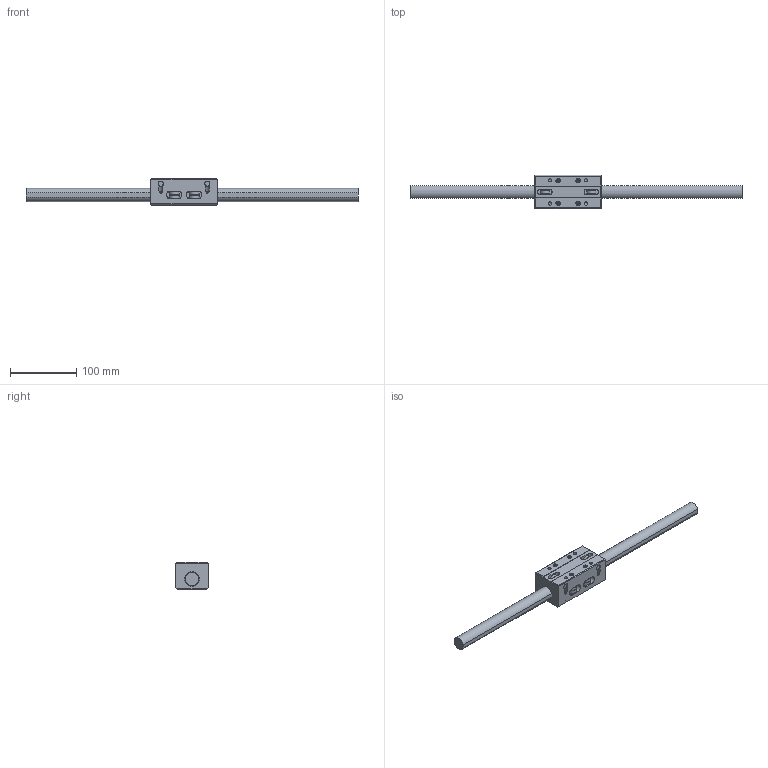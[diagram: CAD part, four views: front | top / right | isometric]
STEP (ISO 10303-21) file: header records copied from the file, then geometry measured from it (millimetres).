
FILE_DESCRIPTION((''),'2;1');
FILE_NAME('D:\製品 (図面)\カタログ用3D\リニアガイド関連\STEP形式\LTW\LTW20.stp','2010-06-02T16:52:35',('Tsuchiya'),(''),'Autodesk Inventor 10','Autodesk Inventor 10','');
FILE_SCHEMA(('AUTOMOTIVE_DESIGN { 1 0 10303 214 1 1 1 1 }'));
Length unit declared in the file: millimetre
Products named in the file (3): LTW20; LTW201; LTW202
Assembly tree (2 placements, depth 2):
  LTW20
    LTW201
    LTW202
Bounding box: 500 x 50 x 41 mm (x, y, z)
Volume: 300938.3 mm3; surface area: 72779.2 mm2
Topology: 2 solids, 2 shells, 299 faces, 699 edges, 450 vertices
Faces by surface type: bspline 137, plane 86, cylinder 45, cone 26, torus 5
Full cylindrical faces by diameter (mm): 4.917 x2, 5 x5, 5.5 x5, 6.5 x5, 8 x7, 14 x3, 15 x4, 16 x2, 22 x1
Entity records: 9327 total; most frequent: CARTESIAN_POINT 3751, ORIENTED_EDGE 1028, DIRECTION 972, EDGE_CURVE 514, EDGE_LOOP 510, VERTEX_POINT 396, AXIS2_PLACEMENT_3D 373, FACE_OUTER_BOUND 299
